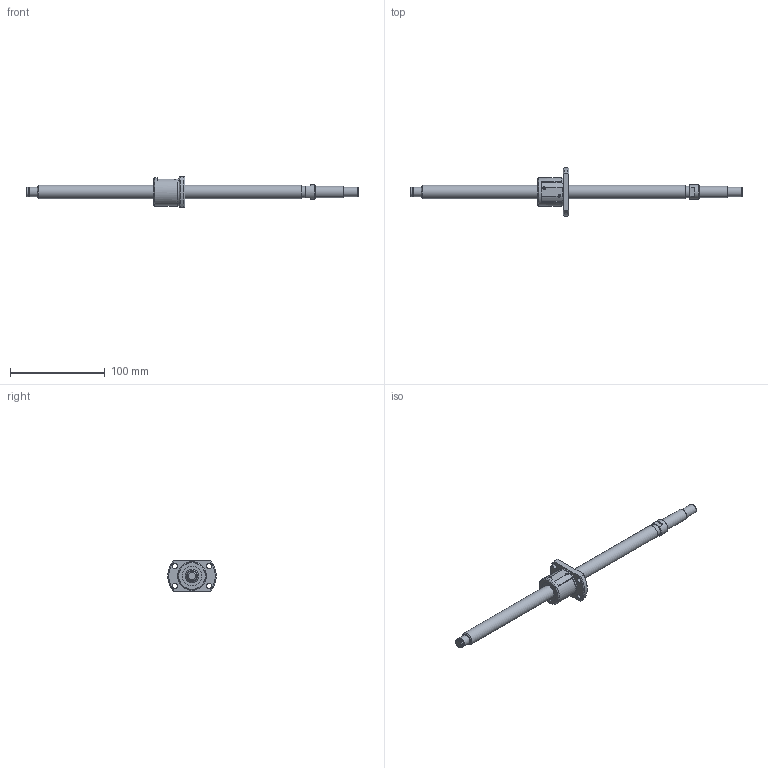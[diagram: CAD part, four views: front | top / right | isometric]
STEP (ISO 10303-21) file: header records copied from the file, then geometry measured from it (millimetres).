
FILE_DESCRIPTION(/* description */ ('STEP AP214'),/* implementation_level */ '2;1');
FILE_NAME(/* name */ 'SG1404-278R350C5B0X(122.5)',/* time_stamp */ '2026-07-24T21:01:32+02:00',/* author */ ('License CC BY-ND 4.0'),/* organization */ ('CADENAS'),/* preprocessor_version */ 'ST-DEVELOPER v20',/* originating_system */ 'PARTsolutions',/* authorisation */ ' ');
FILE_SCHEMA (('AUTOMOTIVE_DESIGN {1 0 10303 214 3 1 1}'));
Length unit declared in the file: millimetre
Products named in the file (3): SG1404-278R350C5B0X(122.5); SG1404-278R350C5B_shaft; SG1404 C5_nut
Assembly tree (2 placements, depth 2):
  SG1404-278R350C5B0X(122.5)
    SG1404-278R350C5B_shaft
    SG1404 C5_nut
Bounding box: 350 x 51 x 32 mm (x, y, z)
Volume: 72042.5 mm3; surface area: 23038.8 mm2
Topology: 2 solids, 2 shells, 85 faces, 202 edges, 132 vertices
Faces by surface type: plane 41, cylinder 29, cone 14, torus 1
Full cylindrical faces by diameter (mm): 5.5 x4, 9.6 x1, 10 x3, 12 x1, 12.16 x1, 14 x2, 15 x1, 21 x2, 29.6 x1, 30 x1
Entity records: 2353 total; most frequent: CARTESIAN_POINT 430, DIRECTION 404, ORIENTED_EDGE 326, AXIS2_PLACEMENT_3D 171, EDGE_CURVE 163, EDGE_LOOP 134, FACE_BOUND 134, VERTEX_POINT 121
